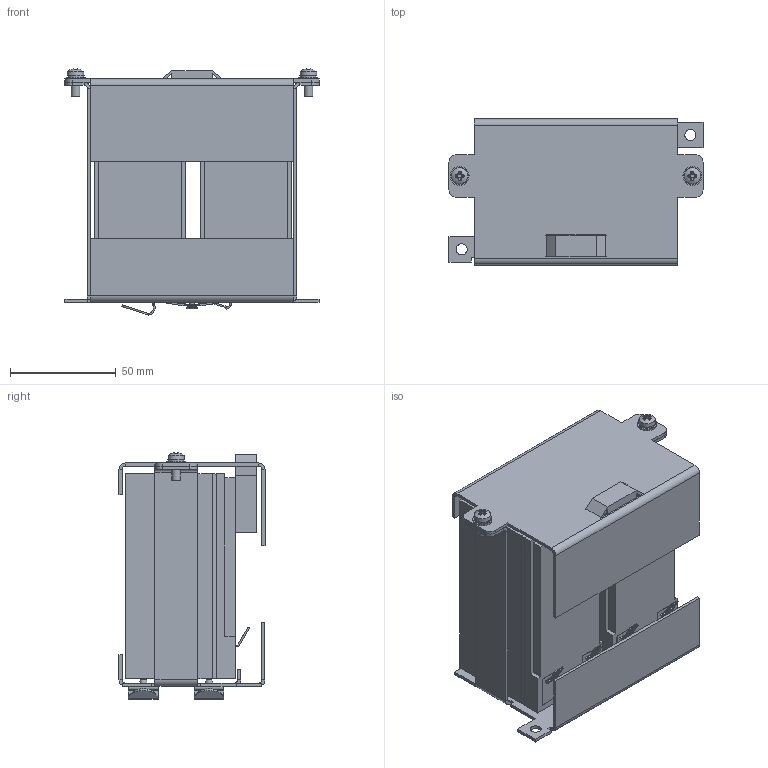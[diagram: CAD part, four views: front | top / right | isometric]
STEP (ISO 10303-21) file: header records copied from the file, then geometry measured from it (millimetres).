
FILE_DESCRIPTION(/* description */ ('NBBH 2401 Batteriemodul'),/* implementation_level */ '2;1');
FILE_NAME(/* name */ 'C:\VAULT_WORKSPACE\Designs\HU\Q33G1001\Q33G1M01.stp',/* time_stamp */ '2022-07-19T06:59:01+02:00',/* author */ ('mhe'),/* organization */ (''),/* preprocessor_version */ 'ST-DEVELOPER v18.1',/* originating_system */ 'Autodesk Inventor 2021',/* authorisation */ '');
FILE_SCHEMA (('AUTOMOTIVE_DESIGN { 1 0 10303 214 3 1 1 }'));
Length unit declared in the file: millimetre
Products named in the file (10): Q33G1M01; DIN 125 - A 4,3; DIN 128 - A4; DIN 7985 (H) - M4x10-H; Q33G1K10; Q33G1K12; FM 4/TS35 0687900000; 12V / 1.2Ah; DIN 7337 - A2,4 x 8; 42040.9
Assembly tree (15 placements, depth 2):
  Q33G1M01
    DIN 125 - A 4,3  x2
    DIN 128 - A4  x2
    DIN 7985 (H) - M4x10-H  x2
    Q33G1K10
    Q33G1K12
    FM 4/TS35 0687900000  x2
    12V / 1.2Ah  x2
    DIN 7337 - A2,4 x 8  x2
    42040.9
Bounding box: 120 x 69 x 116.22 mm (x, y, z)
Volume: 478546.3 mm3; surface area: 109431.1 mm2
Topology: 15 solids, 15 shells, 586 faces, 1494 edges, 960 vertices
Faces by surface type: plane 432, cylinder 110, cone 30, torus 10, sphere 2, bspline 2
Full cylindrical faces by diameter (mm): 2.4 x2, 3.242 x2, 3.65 x2, 4 x4, 4.2 x4, 4.3 x2, 4.4 x2, 5 x6, 5.2 x2, 9 x2
Entity records: 12102 total; most frequent: CARTESIAN_POINT 2184, DIRECTION 1973, ORIENTED_EDGE 1948, EDGE_CURVE 974, LINE 737, VECTOR 737, VERTEX_POINT 618, AXIS2_PLACEMENT_3D 618
